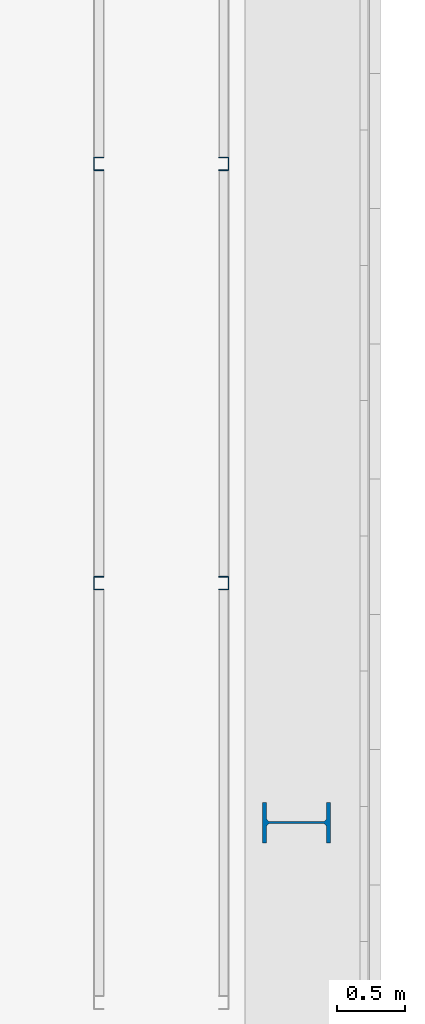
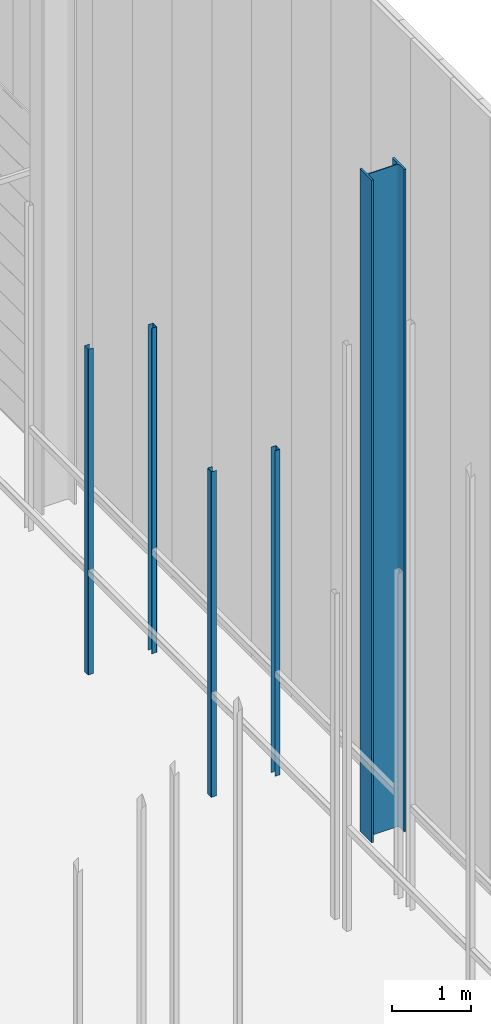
# One storey, part 40 of 302: 5 columns.
"""IFC2X3 building model written with IfcOpenShell, lengths in metres."""

from ifc_helpers import new_model, entity, si_unit, converted_unit, derived_unit, direction, frame, frame_2d, origin, place, context, subcontext, project, spatial, polyline, circle_curve, parameter, trimmed, segment, composite_curve, i_section, outline, extrude, source, transform, mapped, material, type_object, type_shapes, element, save


model = new_model("IFC2X3")

# Units and contexts
model_context = context("Model", 3, precision=1e-05, world=origin(), true_north=direction((6.12303176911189e-17, 1.0)))
body_context = subcontext(model_context, "Body", "Model", "MODEL_VIEW")
ifc_project = project(units=[si_unit("LENGTHUNIT", "METRE"), si_unit("AREAUNIT", "SQUARE_METRE"), si_unit("VOLUMEUNIT", "CUBIC_METRE"), converted_unit("PLANEANGLEUNIT", "DEGREE", entity("IfcRatioMeasure", 0.0174532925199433), si_unit("PLANEANGLEUNIT", "RADIAN"), dimensions=[0, 0, 0, 0, 0, 0, 0]), si_unit("MASSUNIT", "GRAM", prefix="KILO"), derived_unit("MASSDENSITYUNIT", [(si_unit("MASSUNIT", "GRAM", prefix="KILO"), 1), (si_unit("LENGTHUNIT", "METRE"), -3)]), derived_unit("MOMENTOFINERTIAUNIT", [(si_unit("LENGTHUNIT", "METRE"), 4)]), si_unit("TIMEUNIT", "SECOND"), si_unit("FREQUENCYUNIT", "HERTZ"), si_unit("THERMODYNAMICTEMPERATUREUNIT", "DEGREE_CELSIUS"), derived_unit("THERMALTRANSMITTANCEUNIT", [(si_unit("MASSUNIT", "GRAM", prefix="KILO"), 1), (si_unit("THERMODYNAMICTEMPERATUREUNIT", "KELVIN"), -1), (si_unit("TIMEUNIT", "SECOND"), -3)]), derived_unit("VOLUMETRICFLOWRATEUNIT", [(si_unit("LENGTHUNIT", "METRE"), 3), (si_unit("TIMEUNIT", "SECOND"), -1)]), si_unit("ELECTRICCURRENTUNIT", "AMPERE"), si_unit("ELECTRICVOLTAGEUNIT", "VOLT"), si_unit("POWERUNIT", "WATT"), si_unit("FORCEUNIT", "NEWTON", prefix="KILO"), si_unit("ILLUMINANCEUNIT", "LUX"), si_unit("LUMINOUSFLUXUNIT", "LUMEN"), si_unit("LUMINOUSINTENSITYUNIT", "CANDELA"), derived_unit("USERDEFINED", [(si_unit("MASSUNIT", "GRAM", prefix="KILO"), -1), (si_unit("LENGTHUNIT", "METRE"), -2), (si_unit("TIMEUNIT", "SECOND"), 3), (si_unit("LUMINOUSFLUXUNIT", "LUMEN"), 1)]), derived_unit("LINEARVELOCITYUNIT", [(si_unit("LENGTHUNIT", "METRE"), 1), (si_unit("TIMEUNIT", "SECOND"), -1)]), si_unit("PRESSUREUNIT", "PASCAL"), derived_unit("USERDEFINED", [(si_unit("LENGTHUNIT", "METRE"), -2), (si_unit("MASSUNIT", "GRAM", prefix="KILO"), 1), (si_unit("TIMEUNIT", "SECOND"), -2)]), derived_unit("LINEARFORCEUNIT", [(si_unit("MASSUNIT", "GRAM", prefix="KILO"), 1), (si_unit("LENGTHUNIT", "METRE"), 1), (si_unit("TIMEUNIT", "SECOND"), -2), (si_unit("LENGTHUNIT", "METRE"), -1)]), derived_unit("PLANARFORCEUNIT", [(si_unit("MASSUNIT", "GRAM", prefix="KILO"), 1), (si_unit("LENGTHUNIT", "METRE"), 1), (si_unit("TIMEUNIT", "SECOND"), -2), (si_unit("LENGTHUNIT", "METRE"), -2)])], contexts=[model_context])

# Site, building, storey
site_placement = place(None, origin())
site = spatial("IfcSite", under=ifc_project, at=site_placement, Name="Default", CompositionType="ELEMENT")
building_placement = place(site_placement, origin())
building = spatial("IfcBuilding", under=site, at=building_placement, CompositionType="ELEMENT")
storey_placement = place(building_placement, frame((0.0, 0.0, -1.3)))
storey = spatial("IfcBuildingStorey", under=building, at=storey_placement, Name="00_EG", CompositionType="ELEMENT", Elevation=-1.3)

# Columns
ifc_material = material(Name="Metall - Baustahl S235")
column_type_1 = type_object("IfcColumnType", Name="HEB Stütze:HEB 500", PredefinedType="COLUMN", material=ifc_material)
shared_shape_1 = source(origin(), body_context, "Body", "SweptSolid", [
    extrude(i_section(OverallWidth=0.3, OverallDepth=0.5, WebThickness=0.0145, FlangeThickness=0.028, FilletRadius=0.027, at=frame_2d((0.0, -2.77555756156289e-17), x_axis=(0.0, 1.0))), frame((0.0, 0.0, -0.0300000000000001), z_axis=(0.0, 0.0, 1.0), x_axis=(0.0, -1.0, 0.0)), (0.0, 0.0, 1.0), 10.175),
])
type_shapes(column_type_1, [shared_shape_1])
column_placement = place(storey_placement, frame((-177.890111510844, 56.628088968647, 1.3), z_axis=(0.0, 0.0, 1.0), x_axis=(0.0, -1.0, 0.0)))
element("IfcColumn", 1, at=column_placement, inside=storey, type_object=column_type_1, material=ifc_material, Name="HEB Stütze:HEB 500", ObjectType="HEB Stütze:HEB 500", context=body_context, shape_type="MappedRepresentation", body=[
    mapped(shared_shape_1, transform((0.0, 0.0, 0.0), scale=1.0)),
])
column_type_2 = type_object("IfcColumnType", Name="Leichter Stahl Schlossschrauben Stütze:C 100", PredefinedType="COLUMN", material=ifc_material)
shared_shape_2 = source(origin(), body_context, "Body", "SweptSolid", [
    extrude(outline(composite_curve([segment(polyline([(-0.0469749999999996, -0.0499999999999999), (0.0214500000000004, -0.0499999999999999)]), True, "CONTINUOUS"), segment(trimmed(circle_curve(frame_2d((0.0214500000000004, -0.0434249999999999), x_axis=(0.0, -1.0)), 0.00657500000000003), [parameter(0.0)], [parameter(89.9999999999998)], True, "PARAMETER"), True, "CONTINUOUS"), segment(polyline([(0.0280250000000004, -0.0434249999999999), (0.0280250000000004, 0.0434250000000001)]), True, "CONTINUOUS"), segment(trimmed(circle_curve(frame_2d((0.0214500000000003, 0.0434250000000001), x_axis=(1.0, 0.0)), 0.0065750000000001), [parameter(0.0)], [parameter(89.9999999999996)], True, "PARAMETER"), True, "CONTINUOUS"), segment(polyline([(0.0214500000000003, 0.0500000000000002), (-0.0469750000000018, 0.0500000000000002)]), True, "CONTINUOUS"), segment(polyline([(-0.0469750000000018, 0.0500000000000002), (-0.0469750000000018, 0.0450000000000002)]), True, "CONTINUOUS"), segment(polyline([(-0.0469750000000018, 0.0450000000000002), (0.0214500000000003, 0.0450000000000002)]), True, "CONTINUOUS"), segment(trimmed(circle_curve(frame_2d((0.0214500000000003, 0.0434249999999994), x_axis=(0.0, 1.0)), 0.00157500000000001), [parameter(269.999999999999)], [parameter(0.0)], True, "PARAMETER"), False, "CONTINUOUS"), segment(polyline([(0.0230250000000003, 0.0434249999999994), (0.0230250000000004, -0.0434249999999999)]), True, "CONTINUOUS"), segment(trimmed(circle_curve(frame_2d((0.0214500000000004, -0.0434249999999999), x_axis=(1.0, 0.0)), 0.00157500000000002), [parameter(270.0)], [parameter(0.0)], True, "PARAMETER"), False, "CONTINUOUS"), segment(polyline([(0.0214500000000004, -0.0449999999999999), (-0.0469749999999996, -0.0449999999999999)]), True, "CONTINUOUS"), segment(polyline([(-0.0469749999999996, -0.0449999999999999), (-0.0469749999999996, -0.0499999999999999)]), True, "CONTINUOUS")], self_intersect=False)), frame((0.0499999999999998, 0.0280250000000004, -0.0300000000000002), z_axis=(0.0, 0.0, 1.0), x_axis=(0.0, -1.0, 0.0)), (0.0, 0.0, 1.0), 5.0),
])
type_shapes(column_type_2, [shared_shape_2])
for number, where, z_axis, x_axis in (
    (2, (-179.390111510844, 58.448088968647, 1.3), (0.0, 0.0, 1.0), (0.0, -1.0, 0.0)),
    (3, (-179.390111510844, 61.548088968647, 1.3), (0.0, 0.0, 1.0), (0.0, -1.0, 0.0)),
):
    element("IfcColumn", number, at=place(storey_placement, frame(where, z_axis=z_axis, x_axis=x_axis)), inside=storey, type_object=column_type_2, material=ifc_material, Name="Leichter Stahl Schlossschrauben Stütze:C 100", ObjectType="Leichter Stahl Schlossschrauben Stütze:C 100", context=body_context, shape_type="MappedRepresentation", body=[
        mapped(shared_shape_2, transform((0.0, 0.0, 0.0), scale=1.0)),
    ])
column_type_3 = type_object("IfcColumnType", Name="Leichter Stahl Schlossschrauben Stütze:C 100", PredefinedType="COLUMN", material=ifc_material)
shared_shape_3 = source(origin(), body_context, "Body", "SweptSolid", [
    extrude(outline(composite_curve([segment(polyline([(-0.0214500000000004, -0.0499999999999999), (0.0469749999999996, -0.0499999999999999)]), True, "CONTINUOUS"), segment(polyline([(0.0469749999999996, -0.0499999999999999), (0.0469749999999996, -0.0449999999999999)]), True, "CONTINUOUS"), segment(polyline([(0.0469749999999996, -0.0449999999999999), (-0.0214500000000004, -0.045)]), True, "CONTINUOUS"), segment(trimmed(circle_curve(frame_2d((-0.0214500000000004, -0.043425), x_axis=(0.0, -1.0)), 0.00157500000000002), [parameter(270.0)], [parameter(0.0)], True, "PARAMETER"), False, "CONTINUOUS"), segment(polyline([(-0.0230250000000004, -0.0434249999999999), (-0.0230250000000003, 0.0434249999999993)]), True, "CONTINUOUS"), segment(trimmed(circle_curve(frame_2d((-0.0214500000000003, 0.0434249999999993), x_axis=(-1.0, 0.0)), 0.00157500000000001), [parameter(269.999999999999)], [parameter(0.0)], True, "PARAMETER"), False, "CONTINUOUS"), segment(polyline([(-0.0214500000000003, 0.0450000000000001), (0.0469750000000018, 0.0450000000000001)]), True, "CONTINUOUS"), segment(polyline([(0.0469750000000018, 0.0450000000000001), (0.0469750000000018, 0.0500000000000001)]), True, "CONTINUOUS"), segment(polyline([(0.0469750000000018, 0.0500000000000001), (-0.0214500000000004, 0.0500000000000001)]), True, "CONTINUOUS"), segment(trimmed(circle_curve(frame_2d((-0.0214500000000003, 0.043425), x_axis=(0.0, 1.0)), 0.0065750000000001), [parameter(0.0)], [parameter(89.9999999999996)], True, "PARAMETER"), True, "CONTINUOUS"), segment(polyline([(-0.0280250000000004, 0.043425), (-0.0280250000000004, -0.043425)]), True, "CONTINUOUS"), segment(trimmed(circle_curve(frame_2d((-0.0214500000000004, -0.0434249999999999), x_axis=(-1.0, 0.0)), 0.00657500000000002), [parameter(0.0)], [parameter(89.9999999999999)], True, "PARAMETER"), True, "CONTINUOUS")], self_intersect=False)), frame((0.0499999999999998, -0.0280250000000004, -0.0300000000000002), z_axis=(0.0, 0.0, 1.0), x_axis=(0.0, -1.0, 0.0)), (0.0, 0.0, 1.0), 5.0),
])
type_shapes(column_type_3, [shared_shape_3])
for number, where, z_axis, x_axis in (
    (4, (-178.390111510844, 58.448088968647, 1.3), (0.0, 0.0, 1.0), (0.0, -1.0, 0.0)),
    (5, (-178.390111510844, 61.548088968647, 1.3), (0.0, 0.0, 1.0), (0.0, -1.0, 0.0)),
):
    element("IfcColumn", number, at=place(storey_placement, frame(where, z_axis=z_axis, x_axis=x_axis)), inside=storey, type_object=column_type_3, material=ifc_material, Name="Leichter Stahl Schlossschrauben Stütze:C 100", ObjectType="Leichter Stahl Schlossschrauben Stütze:C 100", context=body_context, shape_type="MappedRepresentation", body=[
        mapped(shared_shape_3, transform((0.0, 0.0, 0.0), scale=1.0)),
    ])

save(model, "model.ifc")
